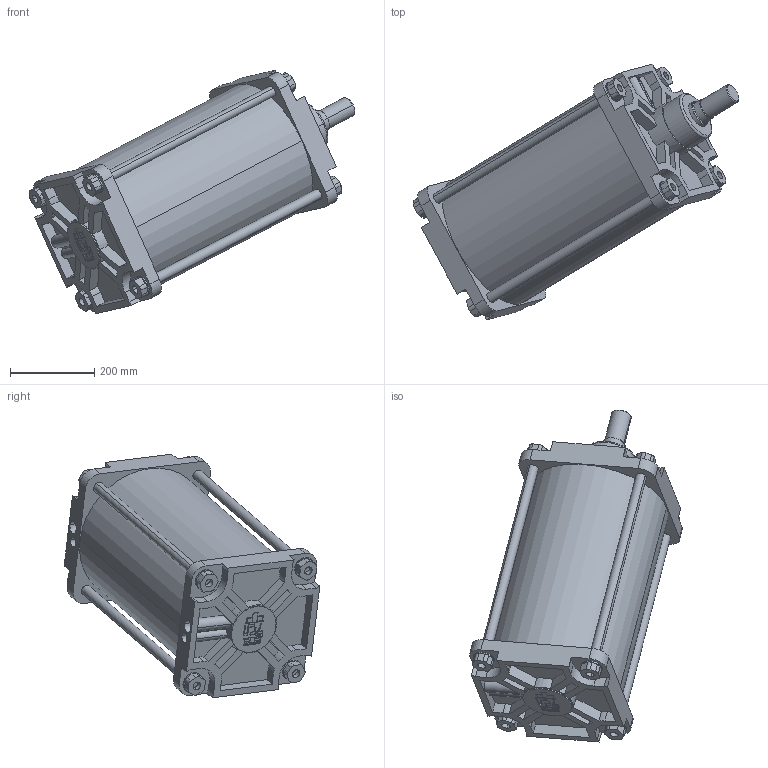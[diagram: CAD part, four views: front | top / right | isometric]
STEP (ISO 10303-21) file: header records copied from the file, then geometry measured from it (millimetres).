
FILE_DESCRIPTION(('CATIA V5 STEP Exchange'),'2;1');
FILE_NAME('D:\stp file for catalog\PNC\320\PNC 320-63-400.stp','2015-10-27T14:02:17+00:00',('none'),('none'),'Version 5-6 Release 2012','CATIA V5 STEP AP203','none');
FILE_SCHEMA(('CONFIG_CONTROL_DESIGN'));
Length unit declared in the file: millimetre
Products named in the file (1): PNC 320-63-400-00
Assembly tree (2 placements, depth 2):
  PNC 320-63-400-00
    #58
    #14831
Bounding box: 774.61 x 608.36 x 579.34 mm (x, y, z)
Volume: 19841135.9 mm3; surface area: 2239753.6 mm2
Topology: 2 solids, 4 shells, 522 faces, 1393 edges, 921 vertices
Faces by surface type: plane 305, cylinder 169, cone 42, torus 6
Entity records: 15447 total; most frequent: CARTESIAN_POINT 3485, ORIENTED_EDGE 2786, DIRECTION 1853, EDGE_CURVE 1393, VERTEX_POINT 921, VECTOR 878, LINE 878, AXIS2_PLACEMENT_3D 682
